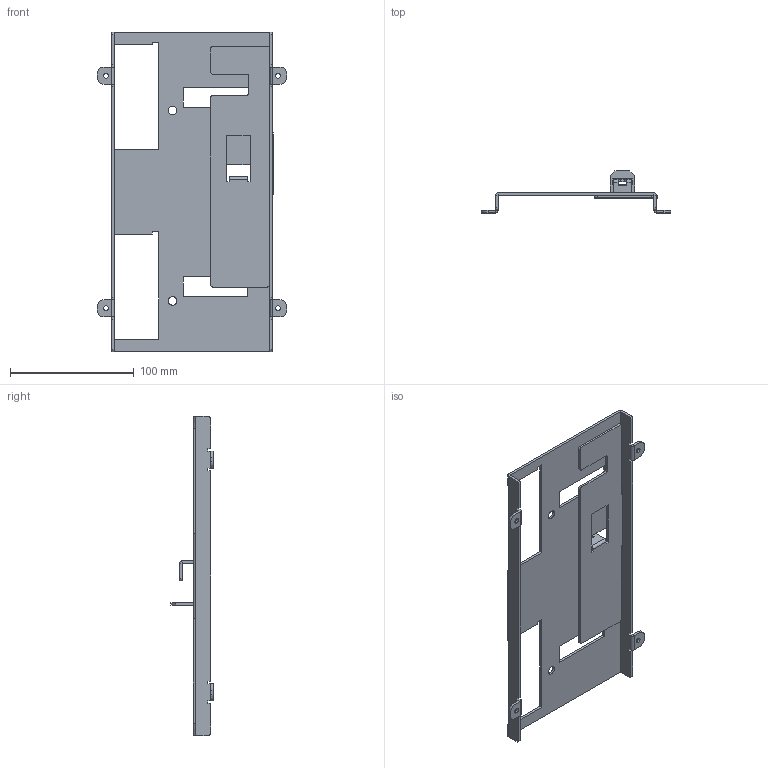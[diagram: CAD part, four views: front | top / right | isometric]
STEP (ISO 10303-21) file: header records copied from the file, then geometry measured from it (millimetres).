
FILE_DESCRIPTION (( 'STEP AP203' ), '1' );
FILE_NAME ('250薊坶.STEP', '2024-09-20T10:15:35', ( 'A' ), ( '' ), 'SwSTEP 2.0', 'SolidWorks 2018', '' );
FILE_SCHEMA (( 'CONFIG_CONTROL_DESIGN' ));
Length unit declared in the file: millimetre
Products named in the file (1): 250薊坶____
Bounding box: 153 x 34 x 258 mm (x, y, z)
Volume: 78395.7 mm3; surface area: 84360.5 mm2
Topology: 2 solids, 2 shells, 223 faces, 597 edges, 370 vertices
Faces by surface type: plane 162, cylinder 61
Entity records: 6964 total; most frequent: ORIENTED_EDGE 1194, CARTESIAN_POINT 1191, DIRECTION 1175, EDGE_CURVE 597, VECTOR 467, LINE 467, VERTEX_POINT 370, AXIS2_PLACEMENT_3D 354
